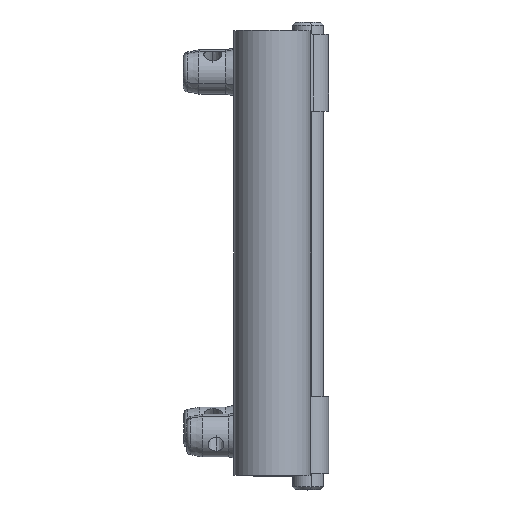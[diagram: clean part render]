
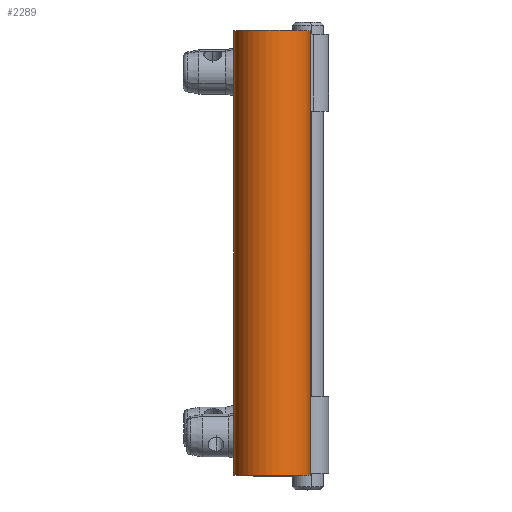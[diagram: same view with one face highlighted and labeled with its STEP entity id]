
A CAD part, top view. The second image highlights one B-rep face of the part: STEP entity #2289.
In plain terms, the highlighted cylindrical face has radius 25 mm (diameter 50 mm), a partial arc.
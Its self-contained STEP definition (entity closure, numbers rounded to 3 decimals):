
#331 = CIRCLE ( 'NONE', #391, 25. ) ;
#332 = CARTESIAN_POINT ( 'NONE',  ( 313., 0., -12.5 ) ) ;
#333 = DIRECTION ( 'NONE',  ( 0., 1., 0. ) ) ;
#334 = VECTOR ( 'NONE', #333, 1000. ) ;
#335 = CARTESIAN_POINT ( 'NONE',  ( 313., -290., -12.5 ) ) ;
#336 = LINE ( 'NONE', #335, #334 ) ;
#337 = CARTESIAN_POINT ( 'NONE',  ( 313., -290., -12.5 ) ) ;
#338 = CARTESIAN_POINT ( 'NONE',  ( 313., -290., 37.5 ) ) ;
#339 = DIRECTION ( 'NONE',  ( 0., 0., 1. ) ) ;
#340 = DIRECTION ( 'NONE',  ( 0., 1., 0. ) ) ;
#341 = CARTESIAN_POINT ( 'NONE',  ( 313., -290., 12.5 ) ) ;
#342 = AXIS2_PLACEMENT_3D ( 'NONE', #341, #340, #339 ) ;
#343 = CIRCLE ( 'NONE', #342, 25. ) ;
#383 = DIRECTION ( 'NONE',  ( 0., 1., 0. ) ) ;
#384 = VECTOR ( 'NONE', #383, 1000. ) ;
#385 = CARTESIAN_POINT ( 'NONE',  ( 313., -290., 37.5 ) ) ;
#386 = LINE ( 'NONE', #385, #384 ) ;
#387 = CARTESIAN_POINT ( 'NONE',  ( 313., 0., 37.5 ) ) ;
#388 = DIRECTION ( 'NONE',  ( 0., 0., 1. ) ) ;
#389 = DIRECTION ( 'NONE',  ( 0., 1., 0. ) ) ;
#390 = CARTESIAN_POINT ( 'NONE',  ( 313., 0., 12.5 ) ) ;
#391 = AXIS2_PLACEMENT_3D ( 'NONE', #390, #389, #388 ) ;
#407 = DIRECTION ( 'NONE',  ( 0., 0., 1. ) ) ;
#408 = DIRECTION ( 'NONE',  ( 0., 1., 0. ) ) ;
#409 = AXIS2_PLACEMENT_3D ( 'NONE', #410, #408, #407 ) ;
#410 = CARTESIAN_POINT ( 'NONE',  ( 313., -290., 12.5 ) ) ;
#411 = CYLINDRICAL_SURFACE ( 'NONE', #409, 25. ) ;
#412 = FACE_OUTER_BOUND ( 'NONE', #2290, .T. ) ;
#2262 = ORIENTED_EDGE ( 'NONE', *, *, #2263, .T. ) ;
#2263 = EDGE_CURVE ( 'NONE', #2264, #2265, #343, .T. ) ;
#2264 = VERTEX_POINT ( 'NONE', #338 ) ;
#2265 = VERTEX_POINT ( 'NONE', #337 ) ;
#2266 = ORIENTED_EDGE ( 'NONE', *, *, #2267, .T. ) ;
#2267 = EDGE_CURVE ( 'NONE', #2265, #2268, #336, .T. ) ;
#2268 = VERTEX_POINT ( 'NONE', #332 ) ;
#2269 = ORIENTED_EDGE ( 'NONE', *, *, #2270, .F. ) ;
#2270 = EDGE_CURVE ( 'NONE', #2271, #2268, #331, .T. ) ;
#2271 = VERTEX_POINT ( 'NONE', #387 ) ;
#2272 = ORIENTED_EDGE ( 'NONE', *, *, #2273, .F. ) ;
#2273 = EDGE_CURVE ( 'NONE', #2264, #2271, #386, .T. ) ;
#2289 = ADVANCED_FACE ( 'NONE', ( #412 ), #411, .T. ) ;
#2290 = EDGE_LOOP ( 'NONE', ( #2262, #2266, #2269, #2272 ) ) ;
